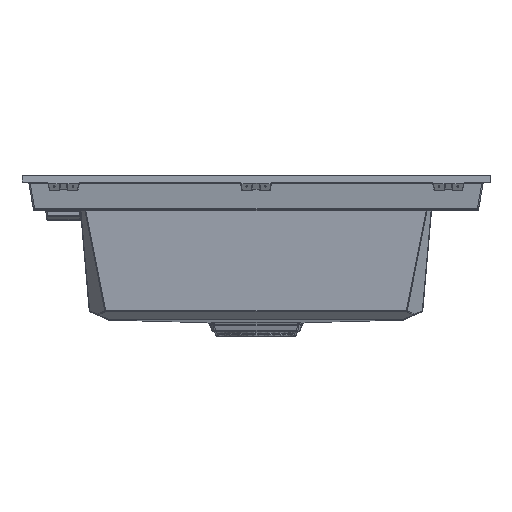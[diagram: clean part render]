
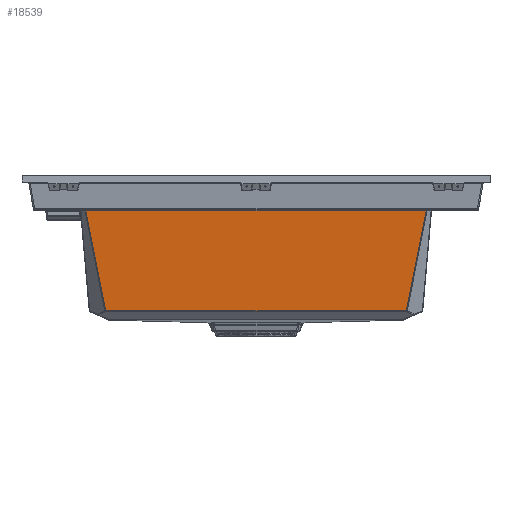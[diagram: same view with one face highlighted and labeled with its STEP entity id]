
A CAD part, top view. The second image highlights one B-rep face of the part: STEP entity #18539.
In plain terms, the highlighted planar face has unit normal (0, -0.087, 0.996).
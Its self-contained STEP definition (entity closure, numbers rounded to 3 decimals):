
#79 = FACE_OUTER_BOUND ( 'NONE', #31410, .T. ) ;
#2628 = VERTEX_POINT ( 'NONE', #34863 ) ;
#3936 = VECTOR ( 'NONE', #34646, 1000. ) ;
#4486 = EDGE_CURVE ( 'NONE', #8217, #2628, #19069, .T. ) ;
#6068 = CARTESIAN_POINT ( 'NONE',  ( 151.668, -200.236, -62.815 ) ) ;
#8012 = DIRECTION ( 'NONE',  ( 0., 0.996, 0.087 ) ) ;
#8217 = VERTEX_POINT ( 'NONE', #6068 ) ;
#8552 = EDGE_CURVE ( 'NONE', #22769, #2628, #27637, .T. ) ;
#8944 = CARTESIAN_POINT ( 'NONE',  ( 18823.399, -94543.887, -8316.815 ) ) ;
#13657 = DIRECTION ( 'NONE',  ( -0.193, -0.977, -0.086 ) ) ;
#13702 = ORIENTED_EDGE ( 'NONE', *, *, #8552, .T. ) ;
#14080 = DIRECTION ( 'NONE',  ( -1., 0., 0. ) ) ;
#14334 = VECTOR ( 'NONE', #13657, 1000. ) ;
#14795 = ORIENTED_EDGE ( 'NONE', *, *, #25331, .F. ) ;
#15374 = EDGE_CURVE ( 'NONE', #27950, #8217, #20561, .T. ) ;
#16666 = CARTESIAN_POINT ( 'NONE',  ( 500000., -200.236, -62.815 ) ) ;
#18539 = ADVANCED_FACE ( 'NONE', ( #79 ), #25274, .F. ) ;
#19000 = CARTESIAN_POINT ( 'NONE',  ( 618.332, -200.236, -62.815 ) ) ;
#19022 = ORIENTED_EDGE ( 'NONE', *, *, #15374, .F. ) ;
#19069 = LINE ( 'NONE', #8944, #34341 ) ;
#20221 = CARTESIAN_POINT ( 'NONE',  ( 500000., -45.826, -49.306 ) ) ;
#20561 = LINE ( 'NONE', #16666, #28611 ) ;
#22769 = VERTEX_POINT ( 'NONE', #26834 ) ;
#23226 = DIRECTION ( 'NONE',  ( -0.193, 0.977, 0.086 ) ) ;
#24294 = ORIENTED_EDGE ( 'NONE', *, *, #4486, .F. ) ;
#24530 = LINE ( 'NONE', #33545, #14334 ) ;
#25154 = DIRECTION ( 'NONE',  ( 0., 0.087, -0.996 ) ) ;
#25274 = PLANE ( 'NONE',  #31807 ) ;
#25331 = EDGE_CURVE ( 'NONE', #22769, #27950, #24530, .T. ) ;
#26834 = CARTESIAN_POINT ( 'NONE',  ( 648.891, -45.826, -49.306 ) ) ;
#27637 = LINE ( 'NONE', #20221, #3936 ) ;
#27950 = VERTEX_POINT ( 'NONE', #19000 ) ;
#28611 = VECTOR ( 'NONE', #14080, 1000. ) ;
#31410 = EDGE_LOOP ( 'NONE', ( #14795, #13702, #24294, #19022 ) ) ;
#31807 = AXIS2_PLACEMENT_3D ( 'NONE', #33487, #25154, #8012 ) ;
#33487 = CARTESIAN_POINT ( 'NONE',  ( 500000., -36.697, -48.508 ) ) ;
#33545 = CARTESIAN_POINT ( 'NONE',  ( 648.891, -45.826, -49.306 ) ) ;
#34341 = VECTOR ( 'NONE', #23226, 1000. ) ;
#34646 = DIRECTION ( 'NONE',  ( -1., 0., 0. ) ) ;
#34863 = CARTESIAN_POINT ( 'NONE',  ( 121.109, -45.826, -49.306 ) ) ;
